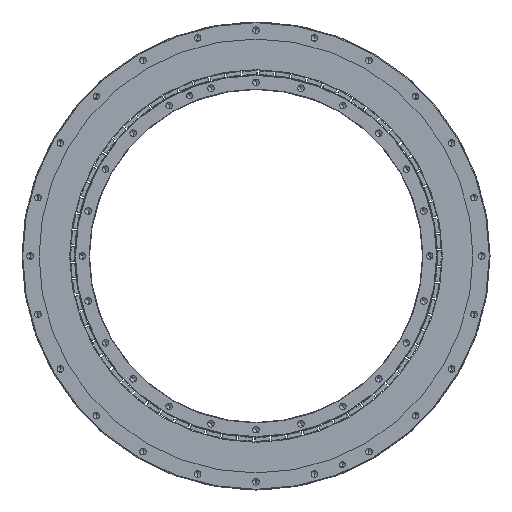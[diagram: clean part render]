
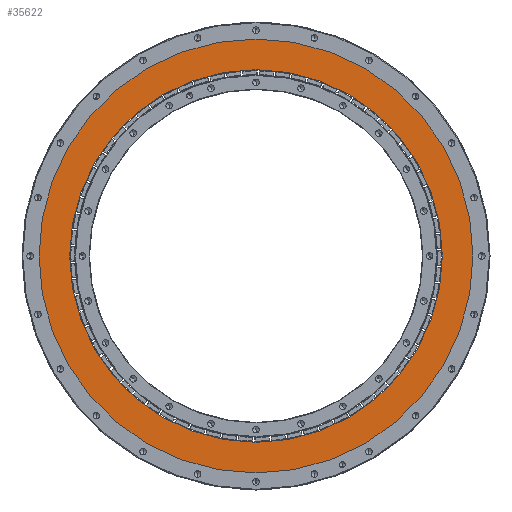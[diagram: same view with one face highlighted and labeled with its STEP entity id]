
A CAD part, front view. The second image highlights one B-rep face of the part: STEP entity #35622.
In plain terms, the highlighted planar face has unit normal (0, -1, 0).
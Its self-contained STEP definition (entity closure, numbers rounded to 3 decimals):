
#317 = FACE_OUTER_BOUND ( 'NONE', #32749, .T. ) ;
#988 = PLANE ( 'NONE',  #38274 ) ;
#3004 = EDGE_CURVE ( 'NONE', #42092, #5909, #24320, .T. ) ;
#3189 = DIRECTION ( 'NONE',  ( 0., 0., -1. ) ) ;
#3665 = CARTESIAN_POINT ( 'NONE',  ( 0., -79., 224.905 ) ) ;
#3728 = DIRECTION ( 'NONE',  ( 0., 0., -1. ) ) ;
#4370 = CIRCLE ( 'NONE', #44226, 193.1 ) ;
#5909 = VERTEX_POINT ( 'NONE', #3665 ) ;
#7203 = DIRECTION ( 'NONE',  ( 0., -1., 0. ) ) ;
#7584 = CIRCLE ( 'NONE', #14121, 224.905 ) ;
#12287 = DIRECTION ( 'NONE',  ( 0., 0., -1. ) ) ;
#12453 = EDGE_CURVE ( 'NONE', #5909, #42092, #7584, .T. ) ;
#12463 = CARTESIAN_POINT ( 'NONE',  ( 0., -79., 0. ) ) ;
#13606 = DIRECTION ( 'NONE',  ( 0., 0., -1. ) ) ;
#14089 = CARTESIAN_POINT ( 'NONE',  ( 0., -79., 0. ) ) ;
#14121 = AXIS2_PLACEMENT_3D ( 'NONE', #35546, #28822, #12287 ) ;
#14285 = CARTESIAN_POINT ( 'NONE',  ( 0., -79., 0. ) ) ;
#20441 = DIRECTION ( 'NONE',  ( 0., -1., 0. ) ) ;
#22147 = AXIS2_PLACEMENT_3D ( 'NONE', #14285, #32124, #28086 ) ;
#22268 = VERTEX_POINT ( 'NONE', #23573 ) ;
#23573 = CARTESIAN_POINT ( 'NONE',  ( 0., -79., -193.1 ) ) ;
#24320 = CIRCLE ( 'NONE', #22147, 224.905 ) ;
#24372 = FACE_BOUND ( 'NONE', #28485, .T. ) ;
#25590 = VERTEX_POINT ( 'NONE', #38637 ) ;
#27158 = EDGE_CURVE ( 'NONE', #22268, #25590, #4370, .T. ) ;
#27392 = EDGE_CURVE ( 'NONE', #25590, #22268, #39879, .T. ) ;
#28086 = DIRECTION ( 'NONE',  ( 0., 0., -1. ) ) ;
#28092 = ORIENTED_EDGE ( 'NONE', *, *, #27392, .F. ) ;
#28485 = EDGE_LOOP ( 'NONE', ( #32974, #28092 ) ) ;
#28822 = DIRECTION ( 'NONE',  ( 0., -1., 0. ) ) ;
#31052 = ORIENTED_EDGE ( 'NONE', *, *, #12453, .T. ) ;
#32032 = DIRECTION ( 'NONE',  ( 0., -1., 0. ) ) ;
#32124 = DIRECTION ( 'NONE',  ( 0., -1., 0. ) ) ;
#32749 = EDGE_LOOP ( 'NONE', ( #33020, #31052 ) ) ;
#32974 = ORIENTED_EDGE ( 'NONE', *, *, #27158, .F. ) ;
#33020 = ORIENTED_EDGE ( 'NONE', *, *, #3004, .T. ) ;
#34722 = CARTESIAN_POINT ( 'NONE',  ( 0., -79., 0. ) ) ;
#34731 = CARTESIAN_POINT ( 'NONE',  ( 0., -79., -224.905 ) ) ;
#35546 = CARTESIAN_POINT ( 'NONE',  ( 0., -79., 0. ) ) ;
#35622 = ADVANCED_FACE ( 'NONE', ( #24372, #317 ), #988, .T. ) ;
#38274 = AXIS2_PLACEMENT_3D ( 'NONE', #34722, #32032, #3728 ) ;
#38637 = CARTESIAN_POINT ( 'NONE',  ( 0., -79., 193.1 ) ) ;
#39879 = CIRCLE ( 'NONE', #42796, 193.1 ) ;
#42092 = VERTEX_POINT ( 'NONE', #34731 ) ;
#42796 = AXIS2_PLACEMENT_3D ( 'NONE', #12463, #7203, #13606 ) ;
#44226 = AXIS2_PLACEMENT_3D ( 'NONE', #14089, #20441, #3189 ) ;
